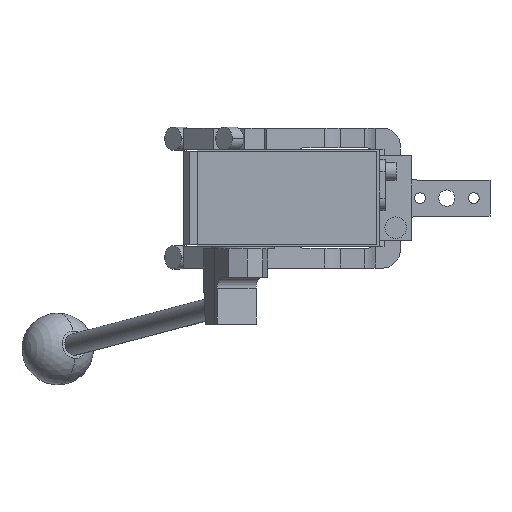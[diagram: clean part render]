
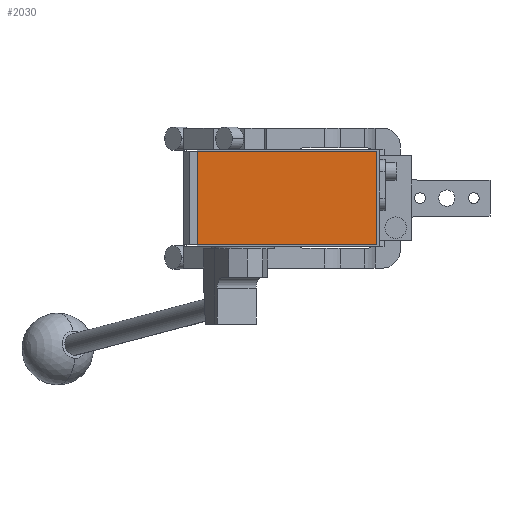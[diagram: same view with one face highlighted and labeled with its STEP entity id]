
A CAD part, front view. The second image highlights one B-rep face of the part: STEP entity #2030.
In plain terms, the highlighted planar face has unit normal (0, -1, 0).
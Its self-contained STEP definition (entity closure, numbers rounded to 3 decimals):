
#292 = VECTOR ( 'NONE', #6990, 1000. ) ;
#626 = CARTESIAN_POINT ( 'NONE',  ( 81., -286.5, 26. ) ) ;
#1600 = DIRECTION ( 'NONE',  ( -1., 0., 0. ) ) ;
#1757 = CARTESIAN_POINT ( 'NONE',  ( -19., -286.5, 26. ) ) ;
#2030 = ADVANCED_FACE ( 'NONE', ( #8162 ), #3429, .T. ) ;
#2088 = ORIENTED_EDGE ( 'NONE', *, *, #13489, .T. ) ;
#2326 = LINE ( 'NONE', #3248, #292 ) ;
#2653 = EDGE_LOOP ( 'NONE', ( #6262, #10367, #6426, #2088 ) ) ;
#3248 = CARTESIAN_POINT ( 'NONE',  ( -19., -286.5, -26. ) ) ;
#3347 = CARTESIAN_POINT ( 'NONE',  ( 0., -286.5, 0. ) ) ;
#3364 = VERTEX_POINT ( 'NONE', #9973 ) ;
#3409 = VECTOR ( 'NONE', #14640, 1000. ) ;
#3429 = PLANE ( 'NONE',  #8441 ) ;
#4013 = CARTESIAN_POINT ( 'NONE',  ( 81., -286.5, 26. ) ) ;
#4411 = DIRECTION ( 'NONE',  ( 0., 0., -1. ) ) ;
#5316 = EDGE_CURVE ( 'NONE', #9305, #14970, #7654, .T. ) ;
#6262 = ORIENTED_EDGE ( 'NONE', *, *, #5316, .T. ) ;
#6426 = ORIENTED_EDGE ( 'NONE', *, *, #14579, .T. ) ;
#6990 = DIRECTION ( 'NONE',  ( 1., 0., 0. ) ) ;
#7225 = VERTEX_POINT ( 'NONE', #4013 ) ;
#7499 = LINE ( 'NONE', #11999, #8229 ) ;
#7654 = LINE ( 'NONE', #1757, #3409 ) ;
#8027 = DIRECTION ( 'NONE',  ( 0., -1., 0. ) ) ;
#8149 = CARTESIAN_POINT ( 'NONE',  ( -19., -286.5, -26. ) ) ;
#8162 = FACE_OUTER_BOUND ( 'NONE', #2653, .T. ) ;
#8229 = VECTOR ( 'NONE', #1600, 1000. ) ;
#8255 = CARTESIAN_POINT ( 'NONE',  ( -19., -286.5, 26. ) ) ;
#8441 = AXIS2_PLACEMENT_3D ( 'NONE', #3347, #8027, #4411 ) ;
#9005 = LINE ( 'NONE', #626, #11910 ) ;
#9305 = VERTEX_POINT ( 'NONE', #8255 ) ;
#9973 = CARTESIAN_POINT ( 'NONE',  ( 81., -286.5, -26. ) ) ;
#10367 = ORIENTED_EDGE ( 'NONE', *, *, #11073, .T. ) ;
#11073 = EDGE_CURVE ( 'NONE', #14970, #3364, #2326, .T. ) ;
#11910 = VECTOR ( 'NONE', #13422, 1000. ) ;
#11999 = CARTESIAN_POINT ( 'NONE',  ( -19., -286.5, 26. ) ) ;
#13422 = DIRECTION ( 'NONE',  ( 0., 0., 1. ) ) ;
#13489 = EDGE_CURVE ( 'NONE', #7225, #9305, #7499, .T. ) ;
#14579 = EDGE_CURVE ( 'NONE', #3364, #7225, #9005, .T. ) ;
#14640 = DIRECTION ( 'NONE',  ( 0., 0., -1. ) ) ;
#14970 = VERTEX_POINT ( 'NONE', #8149 ) ;
